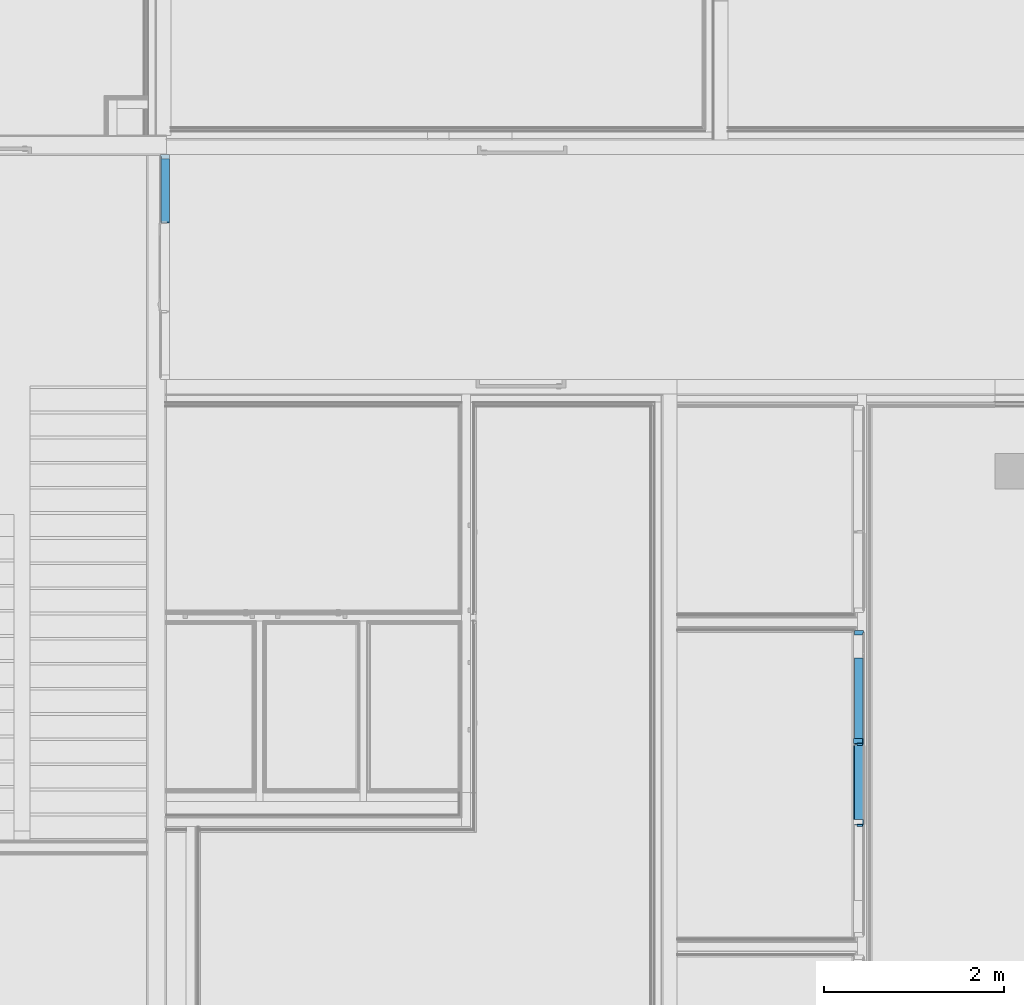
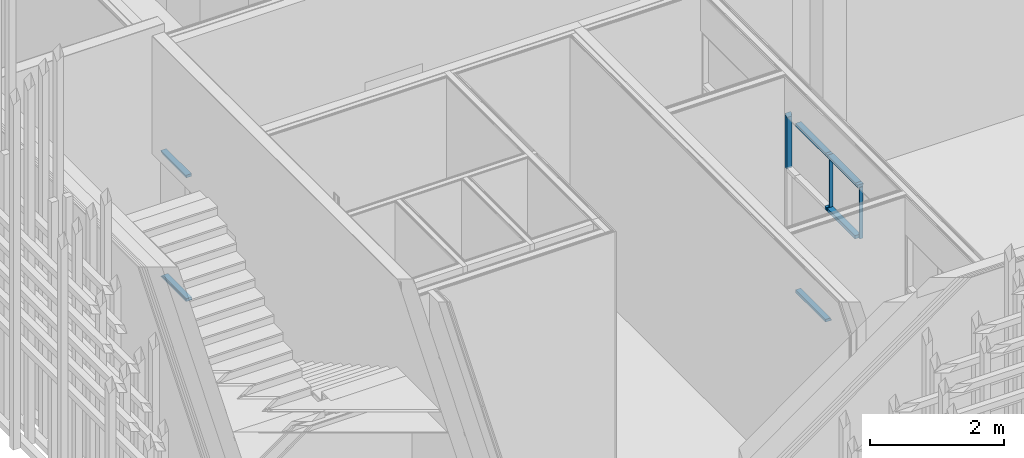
# One storey, part 45 of 260: 12 members, 2 elements without a shape of their own.
"""IFC2X3 building model written with IfcOpenShell, lengths in millimetres."""

from ifc_helpers import new_model, entity, si_unit, converted_unit, derived_unit, money_unit, direction, frame, origin_with_axes, place, context, subcontext, project, spatial, faceted_brep, source, transform, mapped, material, type_object, element, aggregate, save


model = new_model("IFC2X3")

# Units and contexts
model_context = context("Model", 3, precision=0.01, world=origin_with_axes(), true_north=direction((0.0, 1.0)))
body_context = subcontext(model_context, "Body", "Model", "MODEL_VIEW")
ifc_project = project(units=[si_unit("LENGTHUNIT", "METRE", prefix="MILLI"), si_unit("AREAUNIT", "SQUARE_METRE"), si_unit("VOLUMEUNIT", "CUBIC_METRE"), converted_unit("PLANEANGLEUNIT", "DEGREE", entity("IfcPlaneAngleMeasure", 0.0174532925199), si_unit("PLANEANGLEUNIT", "RADIAN"), dimensions=[0, 0, 0, 0, 0, 0, 0]), money_unit("EUR"), converted_unit("TIMEUNIT", "Year", entity("IfcTimeMeasure", 31556926.0), si_unit("TIMEUNIT", "SECOND"), dimensions=[0, 0, 1, 0, 0, 0, 0]), si_unit("MASSUNIT", "GRAM", prefix="KILO"), si_unit("THERMODYNAMICTEMPERATUREUNIT", "DEGREE_CELSIUS"), si_unit("LUMINOUSINTENSITYUNIT", "LUMEN"), si_unit("ENERGYUNIT", "JOULE", prefix="MEGA"), derived_unit("THERMALCONDUCTANCEUNIT", [(si_unit("POWERUNIT", "WATT"), 1), (si_unit("LENGTHUNIT", "METRE"), -1), (si_unit("THERMODYNAMICTEMPERATUREUNIT", "KELVIN"), -1)]), derived_unit("SPECIFICHEATCAPACITYUNIT", [(si_unit("ENERGYUNIT", "JOULE"), 1), (si_unit("MASSUNIT", "GRAM", prefix="KILO"), -1), (si_unit("THERMODYNAMICTEMPERATUREUNIT", "KELVIN"), -1)]), derived_unit("MASSDENSITYUNIT", [(si_unit("MASSUNIT", "GRAM", prefix="KILO"), 1), (si_unit("VOLUMEUNIT", "CUBIC_METRE"), -1)])], contexts=[model_context])

# Site, building, storey
site_placement = place(None, origin_with_axes())
site = spatial("IfcSite", under=ifc_project, at=site_placement, Name="Kolde pst 67a", CompositionType="ELEMENT")
building_placement = place(site_placement, origin_with_axes())
building = spatial("IfcBuilding", under=site, at=building_placement, Name="Riigigümnaasium", CompositionType="ELEMENT")
storey_placement = place(building_placement, origin_with_axes())
storey = spatial("IfcBuildingStorey", under=building, at=storey_placement, Name="1. korrus", CompositionType="ELEMENT", Elevation=0.0)

# Curtain wall, members
curtain_wall_type = type_object("IfcCurtainWallType", Name="Curtain Wall Type", PredefinedType="NOTDEFINED")
curtain_wall_1_placement = place(storey_placement, frame((3185.44852283, 58094.9979478, 0.0), z_axis=(0.0, 0.0, 1.0), x_axis=(1.0, 0.0, 0.0)))
curtain_wall_1 = element("IfcCurtainWall", 1, at=curtain_wall_1_placement, inside=storey, type_object=curtain_wall_type, Name="KLAASSEIN")
ifc_material_1 = material(Name="_GENEERILINE MATERJAL")
member_type_1 = type_object("IfcMemberType", Name="Boundary Frame 50 x 100", PredefinedType="MEMBER")
shared_shape_1 = source(origin_with_axes(), body_context, "Body", "Brep", [
    faceted_brep([(-50.0, -10.0, 50.0), (-50.0, -100.0, 50.0), (-50.0, -100.0, 755.000008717), (-50.0, -10.0, 755.000008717), (-25.0, -10.0, 25.0), (-25.0, 0.0, 25.0), (0.0, 0.0, 0.0), (0.0, -100.0, 0.0), (0.0, -100.0, 755.000008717), (-25.0, -10.0, 755.000008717), (0.0, 0.0, 755.000008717), (-25.0, 0.0, 755.000008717)], [[[0, 1, 2, 3]], [[4, 5, 6, 7, 1, 0]], [[2, 1, 7, 8]], [[9, 3, 2, 8, 10, 11]], [[9, 4, 0, 3]], [[5, 4, 9, 11]], [[11, 10, 6, 5]], [[8, 7, 6, 10]]]),
])
member_1_placement = place(curtain_wall_1_placement, frame((0.0, 1255.00000872, 2300.00008941), z_axis=(0.0, -1.0, 0.0), x_axis=(0.0, 0.0, 1.0)))
member_1 = element("IfcMember", 2, at=member_1_placement, type_object=member_type_1, material=ifc_material_1, Name="RF RAAM SERV-186", ObjectType="MEMBER", context=body_context, shape_type="MappedRepresentation", body=[
    mapped(shared_shape_1, transform((0.0, 0.0, 0.0))),
])
shared_shape_2 = source(origin_with_axes(), body_context, "Body", "Brep", [
    faceted_brep([(50.0, -10.0, 50.0), (50.0, -10.0, 765.000008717), (50.0, -100.0, 765.000008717), (50.0, -100.0, 50.0), (25.0, -10.0, 765.000008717), (25.0, -10.0, 25.0), (25.0, 0.0, 765.000008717), (0.0, 0.0, 765.000008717), (0.0, -100.0, 765.000008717), (0.0, -100.0, 0.0), (0.0, 0.0, 0.0), (25.0, 0.0, 25.0)], [[[0, 1, 2, 3]], [[4, 1, 0, 5]], [[4, 6, 7, 8, 2, 1]], [[2, 8, 9, 3]], [[5, 0, 3, 9, 10, 11]], [[11, 6, 4, 5]], [[6, 11, 10, 7]], [[8, 7, 10, 9]]]),
])
member_2_placement = place(curtain_wall_1_placement, frame((0.0, 1255.00000872, 0.0), z_axis=(0.0, -1.0, 0.0), x_axis=(0.0, 0.0, 1.0)))
member_2 = element("IfcMember", 3, at=member_2_placement, type_object=member_type_1, material=ifc_material_1, Name="RF RAAM SERV-188", ObjectType="MEMBER", context=body_context, shape_type="MappedRepresentation", body=[
    mapped(shared_shape_2, transform((0.0, 0.0, 0.0))),
])
aggregate(curtain_wall_1, [member_1, member_2])

curtain_wall_2_placement = place(storey_placement, frame((11015.3356079, 51182.3220161, 399.999976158), z_axis=(0.0, 0.0, 1.0), x_axis=(1.0, 0.0, 0.0)))
curtain_wall_2 = element("IfcCurtainWall", 4, at=curtain_wall_2_placement, inside=storey, type_object=curtain_wall_type, Name="KLAASSEIN")
member_type_2 = type_object("IfcMemberType", Name="Transom Frame 60 x 100", PredefinedType="MEMBER")
shared_shape_3 = source(origin_with_axes(), body_context, "Body", "Brep", [
    faceted_brep([(30.0, -10.0, 10.000000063), (30.0, -10.0, 62.9694958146), (30.0, -110.0, 62.9694958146), (30.0, -110.0, 10.0000006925), (-30.0, -10.0, 10.000000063), (-30.0, -10.0, 62.9694958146), (-30.0, -110.0, 62.9694958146), (-30.0, -110.0, 10.0000006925)], [[[0, 1, 2, 3]], [[4, 5, 1, 0]], [[2, 1, 5, 6]], [[3, 2, 6, 7]], [[3, 7, 4, 0]], [[7, 6, 5, 4]]]),
])
member_3_placement = place(curtain_wall_2_placement, frame((0.0177246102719, 1594.68678837, 2100.00004956), z_axis=(1.11147909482e-05, 0.999999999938, 0.0), x_axis=(0.0, 0.0, 1.0)))
member_3 = element("IfcMember", 5, at=member_3_placement, type_object=member_type_2, material=ifc_material_1, Name="RF RAAM HOR-470", ObjectType="MEMBER", context=body_context, shape_type="MappedRepresentation", body=[
    mapped(shared_shape_3, transform((0.0, 0.0, 0.0))),
])
shared_shape_4 = source(origin_with_axes(), body_context, "Body", "Brep", [
    faceted_brep([(50.0, -10.0, 0.0), (50.0, -10.0, 900.000000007), (50.0, -100.0, 900.000000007), (50.0, -100.0, 0.0), (25.0, -10.0, 900.000000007), (25.0, -10.0, 0.0), (25.0, 0.0, 900.000000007), (0.0, 0.0, 900.000000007), (0.0, -100.0, 900.000000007), (0.0, -100.0, 0.0), (0.0, 0.0, 0.0), (25.0, 0.0, 0.0)], [[[0, 1, 2, 3]], [[4, 1, 0, 5]], [[4, 6, 7, 8, 2, 1]], [[3, 2, 8, 9]], [[5, 0, 3, 9, 10, 11]], [[11, 6, 4, 5]], [[6, 11, 10, 7]], [[9, 8, 7, 10]]]),
])
member_4_placement = place(curtain_wall_2_placement, frame((0.0184245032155, 1657.65629871, 5.96047033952e-06), z_axis=(1.11147909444e-05, 0.999999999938, 0.0), x_axis=(0.0, 0.0, 1.0)))
member_4 = element("IfcMember", 6, at=member_4_placement, type_object=member_type_1, material=ifc_material_1, Name="RF RAAM SERV-502", ObjectType="MEMBER", context=body_context, shape_type="MappedRepresentation", body=[
    mapped(shared_shape_4, transform((0.0, 0.0, 0.0))),
])
member_5_placement = place(curtain_wall_2_placement, frame((0.0284278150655, 2557.65629866, 3090.0000517), z_axis=(-1.11147909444e-05, -0.999999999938, 0.0), x_axis=(0.0, 0.0, -1.0)))
member_5 = element("IfcMember", 7, at=member_5_placement, type_object=member_type_1, material=ifc_material_1, Name="RF RAAM SERV-507", ObjectType="MEMBER", context=body_context, shape_type="MappedRepresentation", body=[
    mapped(shared_shape_4, transform((0.0, 0.0, 0.0))),
])
shared_shape_5 = source(origin_with_axes(), body_context, "Body", "Brep", [
    faceted_brep([(30.0, -110.0, 0.0), (30.0, -10.0, 0.0), (30.0, -10.0, 827.030504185), (30.0, -110.0, 827.030504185), (-30.0, -110.0, 0.0), (-30.0, -10.0, 0.0), (-30.0, -10.0, 827.030504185), (-30.0, -110.0, 827.030504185)], [[[0, 1, 2, 3]], [[0, 4, 5, 1]], [[1, 5, 6, 2]], [[3, 2, 6, 7]], [[4, 0, 3, 7]], [[5, 4, 7, 6]]]),
])
member_6_placement = place(curtain_wall_2_placement, frame((0.00842119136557, 757.656298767, 2100.00004956), z_axis=(1.11147909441e-05, 0.999999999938, 0.0), x_axis=(0.0, 0.0, 1.0)))
member_6 = element("IfcMember", 8, at=member_6_placement, type_object=member_type_2, material=ifc_material_1, Name="RF RAAM HOR-464", ObjectType="MEMBER", context=body_context, shape_type="MappedRepresentation", body=[
    mapped(shared_shape_5, transform((0.0, 0.0, 0.0))),
])
ifc_material_2 = material(Name="_METALL - alumiinium")
member_type_3 = type_object("IfcMemberType", Name="Mullion Frame 20 x 70", PredefinedType="MEMBER")
shared_shape_6 = source(origin_with_axes(), body_context, "Body", "Brep", [
    faceted_brep([(0.0, -10.0, -6.29561958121e-08), (-10.0, -10.0, -6.29563623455e-08), (-10.0, -10.0, 940.00000208), (0.0, -10.0, 940.00000208), (10.0, -10.0, 940.00000208), (10.0, -10.0, -6.29563623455e-08), (10.0, -70.0, -6.29563623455e-08), (-10.0, -70.0, -6.29563623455e-08), (-10.0, -70.0, 940.000001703), (10.0, -70.0, 940.000001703)], [[[0, 1, 2, 3, 4, 5]], [[1, 0, 5, 6, 7]], [[2, 1, 7, 8]], [[3, 2, 8, 9, 4]], [[4, 9, 6, 5]], [[9, 8, 7, 6]]]),
])
member_7_placement = place(curtain_wall_2_placement, frame((0.00772129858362, 694.686802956, 2100.00004956), z_axis=(0.0, -6.29563829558e-09, 1.0), x_axis=(-1.11147909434e-05, -0.999999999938, -6.29563829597e-09)))
member_7 = element("IfcMember", 9, at=member_7_placement, type_object=member_type_3, material=ifc_material_2, Name="RF RAAM VERT-456", ObjectType="MEMBER", context=body_context, shape_type="MappedRepresentation", body=[
    mapped(shared_shape_6, transform((0.0, 0.0, 0.0))),
])
member_8_placement = place(curtain_wall_2_placement, frame((0.0177246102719, 1594.68678837, 2100.00004956), z_axis=(0.0, -8.78868872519e-09, 1.0), x_axis=(-1.11147909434e-05, -0.999999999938, -8.78868872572e-09)))
member_8 = element("IfcMember", 10, at=member_8_placement, type_object=member_type_3, material=ifc_material_2, Name="RF RAAM VERT-455", ObjectType="MEMBER", context=body_context, shape_type="MappedRepresentation", body=[
    mapped(shared_shape_6, transform((0.0, 0.0, 0.0))),
])
shared_shape_7 = source(origin_with_axes(), body_context, "Body", "Brep", [
    faceted_brep([(50.0, -10.0, 0.0), (50.0, -10.0, 837.030501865), (50.0, -100.0, 837.030501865), (50.0, -100.0, 0.0), (25.0, -10.0, 837.030501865), (25.0, -10.0, 0.0), (25.0, 0.0, 837.030501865), (0.0, 0.0, 837.030501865), (0.0, -100.0, 837.030501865), (0.0, -100.0, 0.0), (0.0, 0.0, 0.0), (25.0, 0.0, 0.0)], [[[0, 1, 2, 3]], [[4, 1, 0, 5]], [[4, 6, 7, 8, 2, 1]], [[3, 2, 8, 9]], [[5, 0, 3, 9, 10, 11]], [[11, 6, 4, 5]], [[6, 11, 10, 7]], [[9, 8, 7, 10]]]),
])
member_9_placement = place(curtain_wall_2_placement, frame((0.017724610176, 1594.68677967, 3090.0000517), z_axis=(-1.11147909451e-05, -0.999999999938, 0.0), x_axis=(0.0, 0.0, -1.0)))
member_9 = element("IfcMember", 11, at=member_9_placement, type_object=member_type_1, material=ifc_material_1, Name="RF RAAM SERV-508", ObjectType="MEMBER", context=body_context, shape_type="MappedRepresentation", body=[
    mapped(shared_shape_7, transform((0.0, 0.0, 0.0))),
])
shared_shape_8 = source(origin_with_axes(), body_context, "Body", "Brep", [
    faceted_brep([(50.0, -10.0, 0.0), (50.0, -10.0, 62.9695190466), (50.0, -100.0, 62.9695190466), (50.0, -100.0, 0.0), (25.0, -10.0, 62.9695190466), (25.0, -10.0, 0.0), (25.0, 0.0, 62.9695190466), (0.0, 0.0, 62.9695190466), (0.0, -100.0, 62.9695190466), (0.0, -100.0, 0.0), (0.0, 0.0, 0.0), (25.0, 0.0, 0.0)], [[[0, 1, 2, 3]], [[4, 1, 0, 5]], [[4, 6, 7, 8, 2, 1]], [[3, 2, 8, 9]], [[5, 0, 3, 9, 10, 11]], [[11, 6, 4, 5]], [[6, 11, 10, 7]], [[9, 8, 7, 10]]]),
])
member_10_placement = place(curtain_wall_2_placement, frame((0.0184245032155, 1657.65629871, 3090.0000517), z_axis=(-1.11147909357e-05, -0.999999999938, 0.0), x_axis=(0.0, 0.0, -1.0)))
member_10 = element("IfcMember", 12, at=member_10_placement, type_object=member_type_1, material=ifc_material_1, Name="RF RAAM SERV-508", ObjectType="MEMBER", context=body_context, shape_type="MappedRepresentation", body=[
    mapped(shared_shape_8, transform((0.0, 0.0, 0.0))),
])
member_11_placement = place(curtain_wall_2_placement, frame((0.00842119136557, 757.656298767, 3090.0000517), z_axis=(-1.1114790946e-05, -0.999999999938, 0.0), x_axis=(0.0, 0.0, -1.0)))
member_11 = element("IfcMember", 13, at=member_11_placement, type_object=member_type_1, material=ifc_material_1, Name="RF RAAM SERV-509", ObjectType="MEMBER", context=body_context, shape_type="MappedRepresentation", body=[
    mapped(shared_shape_8, transform((0.0, 0.0, 0.0))),
])
shared_shape_9 = source(origin_with_axes(), body_context, "Body", "Brep", [
    faceted_brep([(50.0, -10.0, 0.0), (50.0, -10.0, 940.000002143), (50.0, -100.0, 940.000002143), (50.0, -100.0, 0.0), (25.0, -10.0, 965.000002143), (25.0, -10.0, 0.0), (25.0, 0.0, 965.000002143), (0.0, 0.0, 990.000002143), (0.0, -100.0, 990.000002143), (0.0, -100.0, 0.0), (0.0, 0.0, 0.0), (25.0, 0.0, 0.0)], [[[0, 1, 2, 3]], [[4, 1, 0, 5]], [[4, 6, 7, 8, 2, 1]], [[3, 2, 8, 9]], [[5, 0, 3, 9, 10, 11]], [[11, 6, 4, 5]], [[6, 11, 10, 7]], [[9, 8, 7, 10]]]),
])
member_12_placement = place(curtain_wall_2_placement, frame((0.0318180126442, 2862.67306383, 2100.00004956), z_axis=(0.0, 0.0, 1.0), x_axis=(-1.11147909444e-05, -0.999999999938, 0.0)))
member_12 = element("IfcMember", 14, at=member_12_placement, type_object=member_type_1, material=ifc_material_1, Name="RF RAAM SERV-505", ObjectType="MEMBER", context=body_context, shape_type="MappedRepresentation", body=[
    mapped(shared_shape_9, transform((0.0, 0.0, 0.0))),
])
aggregate(curtain_wall_2, [member_3, member_4, member_6, member_7, member_8, member_9, member_5, member_10, member_11, member_12])

save(model, "model.ifc")
